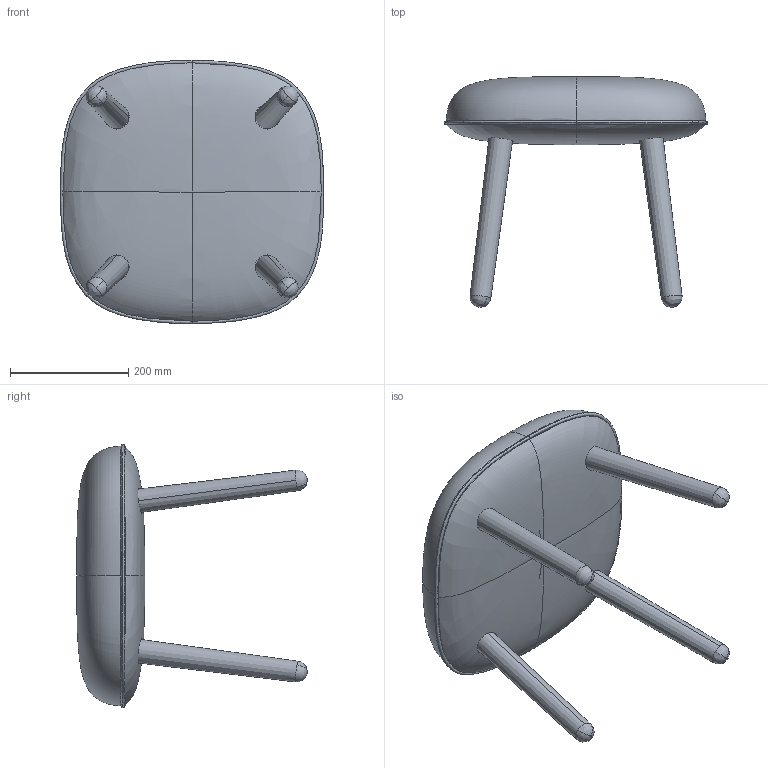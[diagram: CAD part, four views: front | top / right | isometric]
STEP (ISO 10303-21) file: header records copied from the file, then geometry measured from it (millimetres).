
FILE_DESCRIPTION (( 'STEP AP203' ), '1' );
FILE_NAME ('Ace Footstool - Assembled.STEP', '2016-09-14T07:39:43', ( '' ), ( '' ), 'SwSTEP 2.0', 'SolidWorks 2014', '' );
FILE_SCHEMA (( 'CONFIG_CONTROL_DESIGN' ));
Length unit declared in the file: millimetre
Products named in the file (1): Ace Footstool - Assembled
Bounding box: 445.77 x 390 x 446.01 mm (x, y, z)
Volume: 16795462.8 mm3; surface area: 589585.5 mm2
Topology: 10 solids, 10 shells, 84 faces, 172 edges, 106 vertices
Faces by surface type: bspline 28, plane 24, cylinder 16, cone 16
Entity records: 26940 total; most frequent: CARTESIAN_POINT 25324, ORIENTED_EDGE 328, DIRECTION 266, EDGE_CURVE 164, AXIS2_PLACEMENT_3D 117, VERTEX_POINT 106, EDGE_LOOP 92, ADVANCED_FACE 84
